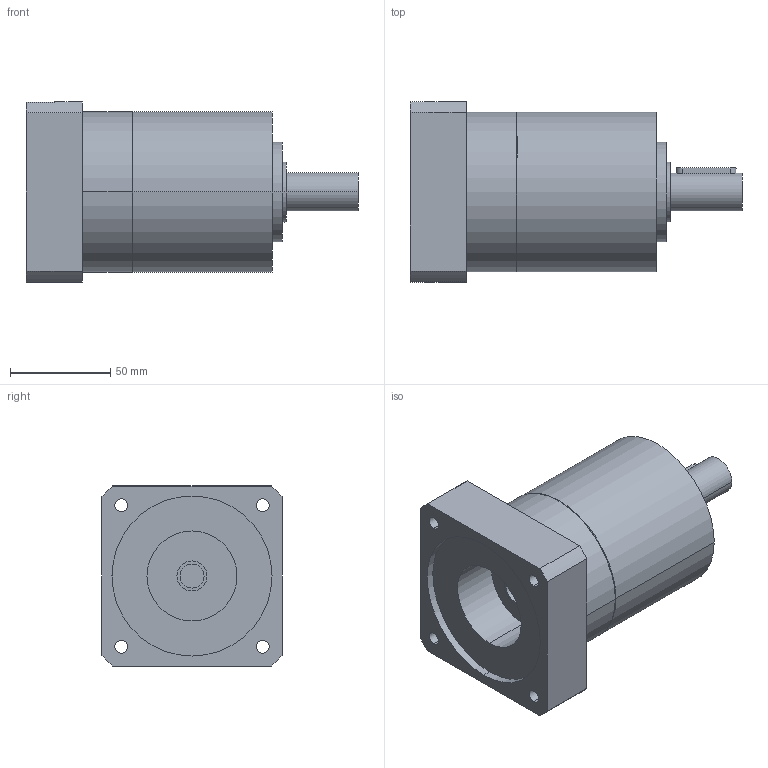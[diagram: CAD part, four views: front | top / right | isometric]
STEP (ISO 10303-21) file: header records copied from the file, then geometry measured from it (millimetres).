
FILE_DESCRIPTION(('CoCreate Modeling STEP Export'),'2;1');
FILE_NAME('GPR100_ig-3-4-5-6_19_B14_12_P28.stp','2014-08-26T10:06:16',(''),(''),'CoCreate Modeling STEP processor for AP214 (Solid Model)','CoCreate Modeling 16.00C 25-Feb-2009 (C) Parametric Technology GmbH','');
FILE_SCHEMA(('AUTOMOTIVE_DESIGN { 1 0 10303 214 1 1 1 1 }'));
Length unit declared in the file: millimetre
Products named in the file (2): GPR100_ig-3-4-5-6_19_B14_12_P28
Assembly tree (1 placements, depth 2):
  GPR100_ig-3-4-5-6_19_B14_12_P28
    GPR100_ig-3-4-5-6_19_B14_12_P28
Bounding box: 166 x 90 x 90 mm (x, y, z)
Volume: 659125.4 mm3; surface area: 62294.9 mm2
Topology: 1 solids, 1 shells, 70 faces, 185 edges, 129 vertices
Faces by surface type: cylinder 42, plane 22, cone 6
Entity records: 1924 total; most frequent: ORIENTED_EDGE 366, CARTESIAN_POINT 357, DIRECTION 262, EDGE_CURVE 183, VERTEX_POINT 129, AXIS2_PLACEMENT_3D 98, EDGE_LOOP 92, FACE_OUTER_BOUND 70
